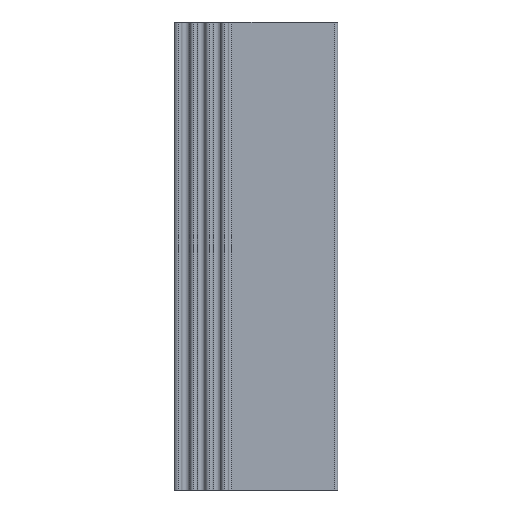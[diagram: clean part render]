
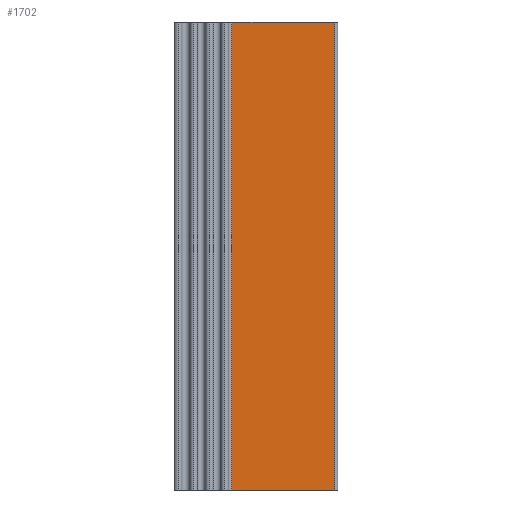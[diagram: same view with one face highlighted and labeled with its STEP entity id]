
A CAD part, left-side view. The second image highlights one B-rep face of the part: STEP entity #1702.
In plain terms, the highlighted planar face has unit normal (-1, 0, 0).
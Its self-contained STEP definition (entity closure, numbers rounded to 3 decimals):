
#13 = ORIENTED_EDGE ( 'NONE', *, *, #287, .T. ) ;
#45 = ORIENTED_EDGE ( 'NONE', *, *, #834, .T. ) ;
#48 = ORIENTED_EDGE ( 'NONE', *, *, #103, .F. ) ;
#71 = EDGE_LOOP ( 'NONE', ( #45, #48, #580, #13 ) ) ;
#103 = EDGE_CURVE ( 'NONE', #1726, #988, #1166, .T. ) ;
#258 = VERTEX_POINT ( 'NONE', #593 ) ;
#287 = EDGE_CURVE ( 'NONE', #652, #258, #679, .T. ) ;
#580 = ORIENTED_EDGE ( 'NONE', *, *, #1740, .F. ) ;
#593 = CARTESIAN_POINT ( 'NONE',  ( -3., 34., 0. ) ) ;
#652 = VERTEX_POINT ( 'NONE', #1147 ) ;
#679 = LINE ( 'NONE', #680, #681 ) ;
#680 = CARTESIAN_POINT ( 'NONE',  ( -3., 34., 150. ) ) ;
#681 = VECTOR ( 'NONE', #682, 1000. ) ;
#682 = DIRECTION ( 'NONE',  ( 0., 0., -1. ) ) ;
#834 = EDGE_CURVE ( 'NONE', #258, #988, #1244, .T. ) ;
#915 = FACE_OUTER_BOUND ( 'NONE', #71, .T. ) ;
#916 = PLANE ( 'NONE',  #917 ) ;
#917 = AXIS2_PLACEMENT_3D ( 'NONE', #918, #919, #920 ) ;
#918 = CARTESIAN_POINT ( 'NONE',  ( -3., 1., 150. ) ) ;
#919 = DIRECTION ( 'NONE',  ( 1., 0., 0. ) ) ;
#920 = DIRECTION ( 'NONE',  ( 0., 0., -1. ) ) ;
#988 = VERTEX_POINT ( 'NONE', #1324 ) ;
#1084 = CARTESIAN_POINT ( 'NONE',  ( -3., 1., 150. ) ) ;
#1147 = CARTESIAN_POINT ( 'NONE',  ( -3., 34., 150. ) ) ;
#1166 = LINE ( 'NONE', #1167, #1168 ) ;
#1167 = CARTESIAN_POINT ( 'NONE',  ( -3., 1., 150. ) ) ;
#1168 = VECTOR ( 'NONE', #1169, 1000. ) ;
#1169 = DIRECTION ( 'NONE',  ( 0., 0., -1. ) ) ;
#1215 = LINE ( 'NONE', #1220, #1221 ) ;
#1220 = CARTESIAN_POINT ( 'NONE',  ( -3., 1., 150. ) ) ;
#1221 = VECTOR ( 'NONE', #1222, 1000. ) ;
#1222 = DIRECTION ( 'NONE',  ( 0., -1., 0. ) ) ;
#1244 = LINE ( 'NONE', #1245, #1246 ) ;
#1245 = CARTESIAN_POINT ( 'NONE',  ( -3., 1., 0. ) ) ;
#1246 = VECTOR ( 'NONE', #1247, 1000. ) ;
#1247 = DIRECTION ( 'NONE',  ( 0., -1., 0. ) ) ;
#1324 = CARTESIAN_POINT ( 'NONE',  ( -3., 1., 0. ) ) ;
#1702 = ADVANCED_FACE ( 'NONE', ( #915 ), #916, .F. ) ;
#1726 = VERTEX_POINT ( 'NONE', #1084 ) ;
#1740 = EDGE_CURVE ( 'NONE', #652, #1726, #1215, .T. ) ;
